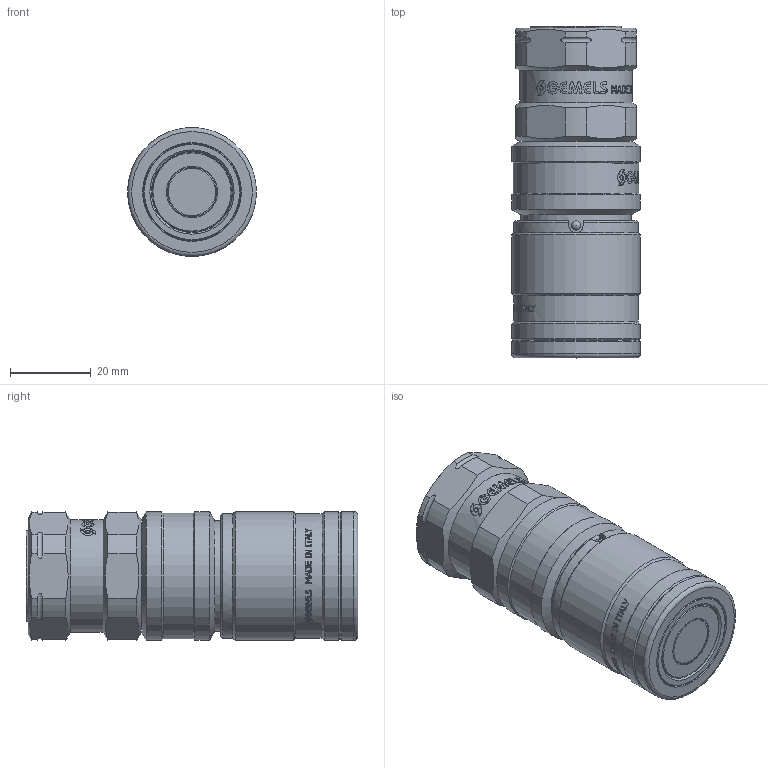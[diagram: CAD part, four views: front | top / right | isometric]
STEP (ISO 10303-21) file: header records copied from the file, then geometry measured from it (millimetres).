
FILE_DESCRIPTION(/* description */ (''),/* implementation_level */ '2;1');
FILE_NAME(/* name */ 'NC06N030000.stp',/* time_stamp */ '2024-08-26T13:20:48+02:00',/* author */ ('thomas.belotti'),/* organization */ (''),/* preprocessor_version */ 'ST-DEVELOPER v20',/* originating_system */ 'Autodesk Inventor 2024',/* authorisation */ '');
FILE_SCHEMA (('AUTOMOTIVE_DESIGN { 1 0 10303 214 3 1 1 }'));
Products named in the file (1): Parte1
Bounding box: 32 x 82.34 x 32 mm (x, y, z)
Volume: 55074.5 mm3; surface area: 18649.8 mm2
Topology: 1 solids, 7 shells, 1657 faces, 4682 edges, 3110 vertices
Faces by surface type: bspline 1037, plane 424, cylinder 135, cone 28, sphere 18, torus 15
Full cylindrical faces by diameter (mm): 2.3 x4, 12.7 x1, 17.475 x1, 18 x1, 19 x1, 22.5 x1, 24 x1, 24.15 x1, 24.193 x5, 24.3 x1, 24.376 x1, 26 x1, 26.3 x1, 26.8 x1, 27.3 x2, 27.5 x1, 28 x1, 31 x1, 31.1 x1, 31.8 x2, 32 x3
Entity records: 72047 total; most frequent: CARTESIAN_POINT 34315, ORIENTED_EDGE 9360, EDGE_CURVE 4680, DIRECTION 4307, VERTEX_POINT 3110, B_SPLINE_CURVE_WITH_KNOTS 2208, LINE 1815, VECTOR 1815
